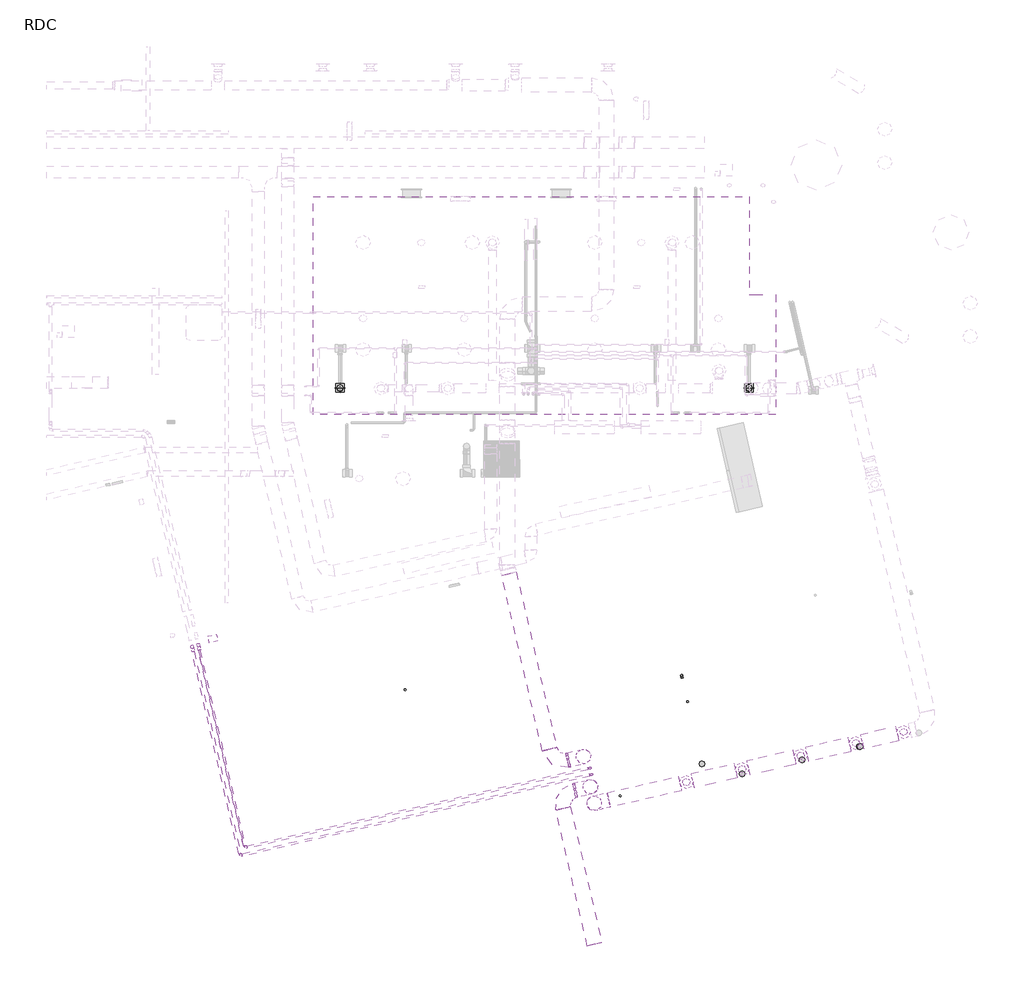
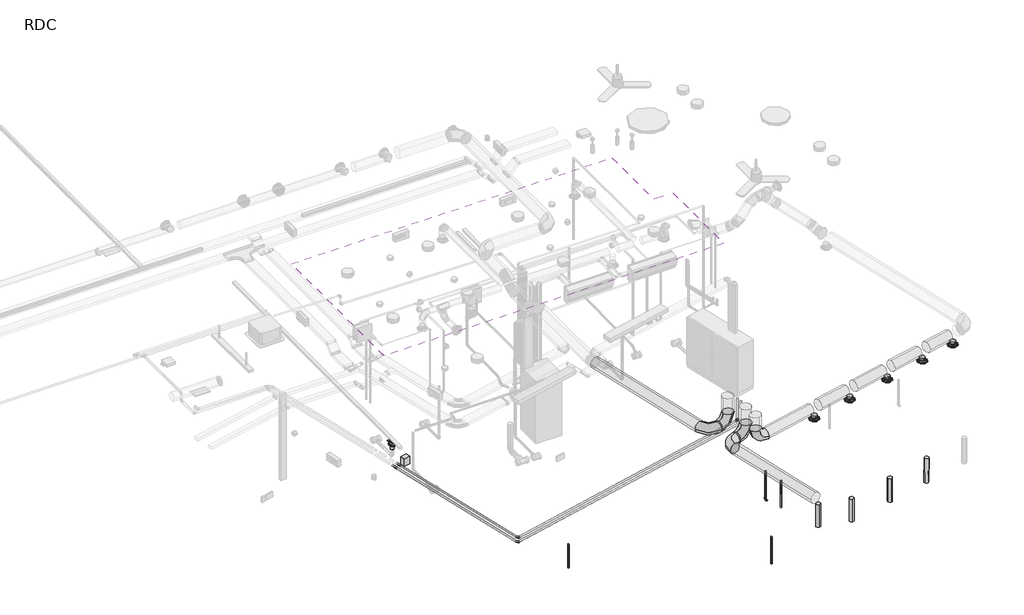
# One storey, part 1 of 15: 17 duct segments, 16 pipe segments, 7 pipe fittings, 5 air terminals, 5 duct fittings, 2 flow terminals, 1 covering, 1 valve.
"""IFC4 building model written with IfcOpenShell, lengths in millimetres."""

from ifc_helpers import new_model, si_unit, point, frame, frame_2d, origin, place, context, project, spatial, polyline, circle_curve, trimmed, segment, composite_curve, outline, extrude, transform, mapped, element, save
from ifc_brep_helpers import plane_surface, cylinder_surface, advanced_brep
from components import air_terminal_c84e8fe3, coude_circulaire_1_d_a3c698fd, coude_circulaire_1_d_d42bbd03, coude_circulaire_1_d_a49ceb65, coude_circulaire_1_d_0986e44b, flow_terminal_425eb7e2, coude_ff_pvc_u_standard_dcdbfd8c, standard_8dba9d94, standard_7c18a4ec, valve_f3d73a9d

model = new_model("IFC4")

# Units and contexts
model_context = context("Model", 3, world=origin())
ifc_project = project(units=[si_unit("LENGTHUNIT", "METRE", prefix="MILLI")], contexts=[model_context])

# Site, building, storey
site = spatial("IfcSite", under=ifc_project)
building = spatial("IfcBuilding", under=site)
storey = spatial("IfcBuildingStorey", under=building, Name="RDC", Elevation=0.0)

# Air terminals
placement = place(None, origin())
air_terminal_shape = air_terminal_c84e8fe3(model_context)
element("IfcAirTerminal", 1, ObjectType="AI_Bouche aération_Circulaire Extraction : ø125 mm", at=placement, inside=storey, context=model_context, shape_type="MappedRepresentation", body=[
    mapped(air_terminal_shape, transform((38460.9974692, -2365.0178721, 2539.0818693), x_axis=(0.0, 1.0, 0.0), y_axis=(-1.0, 0.0, 0.0), z_axis=(0.0, 0.0, 1.0))),
])
element("IfcAirTerminal", 2, ObjectType="AI_Bouche aération_Circulaire Extraction : ø125 mm", at=placement, inside=storey, context=model_context, shape_type="MappedRepresentation", body=[
    mapped(air_terminal_shape, transform((39398.6911073, -2148.6759029, 2539.0818693), x_axis=(0.0, 1.0, 0.0), y_axis=(-1.0, 0.0, 0.0), z_axis=(0.0, 0.0, 1.0))),
])
element("IfcAirTerminal", 3, ObjectType="AI_Bouche aération_Circulaire Extraction : ø125 mm", at=placement, inside=storey, context=model_context, shape_type="MappedRepresentation", body=[
    mapped(air_terminal_shape, transform((40384.7770224, -1921.0048281, 2539.0818693), x_axis=(0.0, 1.0, 0.0), y_axis=(-1.0, 0.0, 0.0), z_axis=(0.0, 0.0, 1.0))),
])
element("IfcAirTerminal", 4, ObjectType="AI_Bouche aération_Circulaire Extraction : ø125 mm", at=placement, inside=storey, context=model_context, shape_type="MappedRepresentation", body=[
    mapped(air_terminal_shape, transform((41312.0896047, -1706.9035525, 2539.0818693), x_axis=(0.0, 1.0, 0.0), y_axis=(-1.0, 0.0, 0.0), z_axis=(0.0, 0.0, 1.0))),
])
element("IfcAirTerminal", 5, ObjectType="AI_Bouche aération_Circulaire Extraction : ø125 mm", at=placement, inside=storey, context=model_context, shape_type="MappedRepresentation", body=[
    mapped(air_terminal_shape, transform((42116.7842584, -1521.4537814, 2539.0818693), x_axis=(0.0, 1.0, 0.0), y_axis=(-1.0, 0.0, 0.0), z_axis=(0.0, 0.0, 1.0))),
])

# Covering
element("IfcCovering", 6, ObjectType="Faux plafond 70mm", at=placement, inside=storey, context=model_context, shape_type="SweptSolid", body=[
    extrude(outline(polyline([(39522.1197439, 7494.5404412), (39522.1197439, 5844.5404412), (39962.5862249, 5844.5404412), (39962.5862249, 3819.2828859), (32181.1269581, 3819.2828859), (32181.1269581, 7494.5404412), (39522.1197439, 7494.5404412)])), frame((0.0, 0.0, 2500.0), z_axis=(0.0, 0.0, 1.0), x_axis=(1.0, 0.0, 0.0)), (0.0, 0.0, 1.0), 70.0),
])

# Duct fittings
coude_circulaire_1_d_shape = coude_circulaire_1_d_a3c698fd(model_context)
element("IfcDuctFitting", 7, ObjectType="Coude circulaire : 1 D", at=placement, inside=storey, context=model_context, shape_type="MappedRepresentation", body=[
    mapped(coude_circulaire_1_d_shape, transform((36910.3410685, -2722.9884606, 2809.9), x_axis=(-0.9744017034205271, -0.22481396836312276, 0.0), y_axis=(0.0, 0.0, 1.0), z_axis=(-0.22481396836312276, 0.9744017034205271, 0.0))),
])
element("IfcDuctFitting", 8, ObjectType="Coude circulaire : 1 D", at=placement, inside=storey, context=model_context, shape_type="MappedRepresentation", body=[
    mapped(coude_circulaire_1_d_shape, transform((36846.3028278, -2445.4266375, 2809.9), x_axis=(0.0, 0.0, -1.0), y_axis=(-0.9743700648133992, -0.22495105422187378, 0.0), z_axis=(-0.22495105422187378, 0.9743700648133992, 0.0))),
])
coude_circulaire_1_d_2_shape = coude_circulaire_1_d_d42bbd03(model_context)
element("IfcDuctFitting", 9, ObjectType="Coude circulaire : 1 D", at=placement, inside=storey, context=model_context, shape_type="MappedRepresentation", body=[
    mapped(coude_circulaire_1_d_2_shape, transform((36728.829637, -1936.5943649, 2809.9), x_axis=(0.0, 0.0, -1.0), y_axis=(0.9743700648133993, 0.22495105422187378, 0.0), z_axis=(0.22495105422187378, -0.9743700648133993, 0.0))),
])
coude_circulaire_1_d_3_shape = coude_circulaire_1_d_a49ceb65(model_context)
element("IfcDuctFitting", 10, ObjectType="Coude circulaire : 1 D", at=placement, inside=storey, context=model_context, shape_type="MappedRepresentation", body=[
    mapped(coude_circulaire_1_d_3_shape, transform((36330.4664925, -2564.5164702, 2809.9), x_axis=(-0.9743703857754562, -0.2249496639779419, 0.0), y_axis=(0.2249496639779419, -0.9743703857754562, 0.0), z_axis=(0.0, 0.0, 1.0))),
])
coude_circulaire_1_d_4_shape = coude_circulaire_1_d_0986e44b(model_context)
element("IfcDuctFitting", 11, ObjectType="Coude circulaire : 1 D", at=placement, inside=storey, context=model_context, shape_type="MappedRepresentation", body=[
    mapped(coude_circulaire_1_d_4_shape, transform((36212.9848676, -2055.686518, 2809.9), x_axis=(0.2249577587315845, -0.9743685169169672, -5.243288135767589e-06), y_axis=(0.9743685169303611, 0.2249577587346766, 3.5999192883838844e-11), z_axis=(1.1794832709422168e-06, -5.10890298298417e-06, 0.9999999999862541))),
])

# Duct segments
element("IfcDuctSegment", 12, ObjectType="Circulaire - Té", at=placement, inside=storey, context=model_context, shape_type="SweptSolid", body=[
    extrude(outline(composite_curve([segment(trimmed(circle_curve(frame_2d((0.0, -125.0)), 125.0), [point((-125.0, -125.0))], [point((0.0, 0.0))], False, "CARTESIAN"), True, "CONTINUOUS"), segment(trimmed(circle_curve(frame_2d((0.0, -125.0)), 125.0), [point((0.0, 0.0))], [point((125.0, -125.0))], False, "CARTESIAN"), True, "CONTINUOUS"), segment(trimmed(circle_curve(frame_2d((0.0, -125.0)), 125.0), [point((125.0, -125.0))], [point((0.0, -250.0))], False, "CARTESIAN"), True, "CONTINUOUS"), segment(trimmed(circle_curve(frame_2d((0.0, -125.0)), 125.0), [point((0.0, -250.0))], [point((-125.0, -125.0))], False, "CARTESIAN"), True, "CONTINUOUS")], self_intersect=False)), frame((37153.9415252, -2666.7851024, 2684.9), z_axis=(0.9744023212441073, 0.2248112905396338, 0.0), x_axis=(0.2248112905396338, -0.9744023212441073, 0.0)), (0.0, 0.0, 1.0), 1228.9390263),
])
element("IfcDuctSegment", 13, ObjectType="Circulaire - Té", at=placement, inside=storey, context=model_context, shape_type="SweptSolid", body=[
    extrude(outline(composite_curve([segment(trimmed(circle_curve(frame_2d((36910.3410685, -2722.9884606)), 125.0), [point((36938.4617331, -2844.7843071))], [point((36788.545222, -2751.1091252))], False, "CARTESIAN"), True, "CONTINUOUS"), segment(trimmed(circle_curve(frame_2d((36910.3410685, -2722.9884606)), 125.0), [point((36788.545222, -2751.1091252))], [point((36882.2204039, -2601.1926141))], False, "CARTESIAN"), True, "CONTINUOUS"), segment(trimmed(circle_curve(frame_2d((36910.3410685, -2722.9884606)), 125.0), [point((36882.2204039, -2601.1926141))], [point((37032.136915, -2694.867796))], False, "CARTESIAN"), True, "CONTINUOUS"), segment(trimmed(circle_curve(frame_2d((36910.3410685, -2722.9884606)), 125.0), [point((37032.136915, -2694.867796))], [point((36938.4617331, -2844.7843071))], False, "CARTESIAN"), True, "CONTINUOUS")], self_intersect=False)), frame((0.0, 0.0, 3059.9), z_axis=(0.0, 0.0, 1.0), x_axis=(1.0, 0.0, 0.0)), (0.0, 0.0, 1.0), 327.4813693),
])
element("IfcDuctSegment", 14, ObjectType="Circulaire - Té", at=placement, inside=storey, context=model_context, shape_type="SweptSolid", body=[
    extrude(outline(composite_curve([segment(trimmed(circle_curve(frame_2d((0.0, -125.0)), 125.0), [point((-125.0, -125.0))], [point((0.0, 0.0))], False, "CARTESIAN"), True, "CONTINUOUS"), segment(trimmed(circle_curve(frame_2d((0.0, -125.0)), 125.0), [point((0.0, 0.0))], [point((125.0, -125.0))], False, "CARTESIAN"), True, "CONTINUOUS"), segment(trimmed(circle_curve(frame_2d((0.0, -125.0)), 125.0), [point((125.0, -125.0))], [point((0.0, -250.0))], False, "CARTESIAN"), True, "CONTINUOUS"), segment(trimmed(circle_curve(frame_2d((0.0, -125.0)), 125.0), [point((0.0, -250.0))], [point((-125.0, -125.0))], False, "CARTESIAN"), True, "CONTINUOUS")], self_intersect=False)), frame((36574.0594365, -2508.278974, 2684.9), z_axis=(0.9743700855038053, 0.22495096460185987, 0.0), x_axis=(0.22495096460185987, -0.9743700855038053, 0.0)), (0.0, 0.0, 1.0), 29.4045102),
])
element("IfcDuctSegment", 15, ObjectType="Circulaire - Té", at=placement, inside=storey, context=model_context, shape_type="SweptSolid", body=[
    extrude(outline(composite_curve([segment(trimmed(circle_curve(frame_2d((0.0, 125.0)), 125.0), [point((28.1206646, 3.2041535))], [point((-121.7958465, 96.8793354))], False, "CARTESIAN"), True, "CONTINUOUS"), segment(trimmed(circle_curve(frame_2d((0.0, 125.0)), 125.0), [point((-121.7958465, 96.8793354))], [point((-28.1206646, 246.7958465))], False, "CARTESIAN"), True, "CONTINUOUS"), segment(trimmed(circle_curve(frame_2d((0.0, 125.0)), 125.0), [point((-28.1206646, 246.7958465))], [point((121.7958465, 153.1206646))], False, "CARTESIAN"), True, "CONTINUOUS"), segment(trimmed(circle_curve(frame_2d((0.0, 125.0)), 125.0), [point((121.7958465, 153.1206646))], [point((28.1206646, 3.2041535))], False, "CARTESIAN"), True, "CONTINUOUS")], self_intersect=False)), frame((36846.3028278, -2570.4266375, 3059.8999249), z_axis=(1.3876792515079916e-07, -6.010698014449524e-07, 0.9999999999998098), x_axis=(0.9999999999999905, 0.0, -1.3876792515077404e-07)), (0.0, 0.0, 1.0), 378.3995242),
])
element("IfcDuctSegment", 16, ObjectType="Circulaire - Té", at=placement, inside=storey, context=model_context, shape_type="SweptSolid", body=[
    extrude(outline(composite_curve([segment(trimmed(circle_curve(frame_2d((0.0, -125.0)), 125.0), [point((-125.0, -125.0))], [point((0.0, 0.0))], False, "CARTESIAN"), True, "CONTINUOUS"), segment(trimmed(circle_curve(frame_2d((0.0, -125.0)), 125.0), [point((0.0, 0.0))], [point((125.0000001, -125.0))], False, "CARTESIAN"), True, "CONTINUOUS"), segment(trimmed(circle_curve(frame_2d((0.0, -125.0)), 125.0), [point((125.0000001, -125.0))], [point((0.0, -250.0))], False, "CARTESIAN"), True, "CONTINUOUS"), segment(trimmed(circle_curve(frame_2d((0.0, -125.0)), 125.0), [point((0.0, -250.0))], [point((-125.0, -125.0))], False, "CARTESIAN"), True, "CONTINUOUS")], self_intersect=False)), frame((36915.3057988, -5097.7338324, 2684.9), z_axis=(-0.224951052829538, 0.9743700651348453, 0.0), x_axis=(0.9743700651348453, 0.224951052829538, 0.0)), (0.0, 0.0, 1.0), 2349.8510272),
])
element("IfcDuctSegment", 17, ObjectType="Circulaire - Té", at=placement, inside=storey, context=model_context, shape_type="SweptSolid", body=[
    extrude(outline(composite_curve([segment(trimmed(circle_curve(frame_2d((0.0, -125.0)), 125.0), [point((-125.0, -125.0))], [point((0.0, 0.0))], False, "CARTESIAN"), True, "CONTINUOUS"), segment(trimmed(circle_curve(frame_2d((0.0, -125.0)), 125.0), [point((0.0, 0.0))], [point((125.0, -125.0))], False, "CARTESIAN"), True, "CONTINUOUS"), segment(trimmed(circle_curve(frame_2d((0.0, -125.0)), 125.0), [point((125.0, -125.0))], [point((0.0, -250.0))], False, "CARTESIAN"), True, "CONTINUOUS"), segment(trimmed(circle_curve(frame_2d((0.0, -125.0)), 125.0), [point((0.0, -250.0))], [point((-125.0, -125.0))], False, "CARTESIAN"), True, "CONTINUOUS")], self_intersect=False)), frame((36456.5757065, -1999.4491378, 2684.9), z_axis=(0.9743700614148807, 0.22495106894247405, 0.0), x_axis=(0.22495106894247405, -0.9743700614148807, 0.0)), (0.0, 0.0, 1.0), 29.4153274),
])
element("IfcDuctSegment", 18, ObjectType="Circulaire - Té", at=placement, inside=storey, context=model_context, shape_type="SweptSolid", body=[
    extrude(outline(composite_curve([segment(trimmed(circle_curve(frame_2d((0.0, 125.0)), 125.0), [point((28.1171018, 3.2033309))], [point((-121.796669, 96.8828982))], False, "CARTESIAN"), True, "CONTINUOUS"), segment(trimmed(circle_curve(frame_2d((0.0, 125.0)), 125.0), [point((-121.796669, 96.8828982))], [point((-28.1171017, 246.796669))], False, "CARTESIAN"), True, "CONTINUOUS"), segment(trimmed(circle_curve(frame_2d((0.0, 125.0)), 125.0), [point((-28.1171017, 246.796669))], [point((121.7966691, 153.1171017))], False, "CARTESIAN"), True, "CONTINUOUS"), segment(trimmed(circle_curve(frame_2d((0.0, 125.0)), 125.0), [point((121.7966691, 153.1171017))], [point((28.1171018, 3.2033309))], False, "CARTESIAN"), True, "CONTINUOUS")], self_intersect=False)), frame((36728.829637, -2061.5943649, 3059.9000631), z_axis=(-1.165275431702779e-07, 5.047351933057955e-07, 0.999999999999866), x_axis=(0.9999999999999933, 0.0, 1.1652754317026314e-07)), (0.0, 0.0, 1.0), 378.3995),
])
element("IfcDuctSegment", 19, ObjectType="Circulaire - Té", at=placement, inside=storey, context=model_context, shape_type="SweptSolid", body=[
    extrude(outline(composite_curve([segment(trimmed(circle_curve(frame_2d((0.0, -125.0)), 125.0), [point((-125.0, -125.0001514))], [point((-0.0001515, 0.0))], False, "CARTESIAN"), True, "CONTINUOUS"), segment(trimmed(circle_curve(frame_2d((0.0, -125.0)), 125.0), [point((-0.0001515, 0.0))], [point((125.0, -124.9998486))], False, "CARTESIAN"), True, "CONTINUOUS"), segment(trimmed(circle_curve(frame_2d((0.0, -125.0)), 125.0), [point((125.0, -124.9998486))], [point((0.0001514, -250.0))], False, "CARTESIAN"), True, "CONTINUOUS"), segment(trimmed(circle_curve(frame_2d((0.0, -125.0)), 125.0), [point((0.0001514, -250.0))], [point((-125.0, -125.0001514))], False, "CARTESIAN"), True, "CONTINUOUS")], self_intersect=False)), frame((36156.7458141, -1812.0953881, 2684.9013108), z_axis=(-0.2249577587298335, 0.9743685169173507, 5.247152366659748e-06), x_axis=(0.9743685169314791, 0.2249577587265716, 1.2114386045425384e-06)), (0.0, 0.0, 1.0), 3034.6920039),
])
element("IfcDuctSegment", 20, ObjectType="Circulaire - Té", at=placement, inside=storey, context=model_context, shape_type="SweptSolid", body=[
    extrude(outline(composite_curve([segment(trimmed(circle_curve(frame_2d((38461.0428262, -2365.2144637)), 62.5), [point((38446.9921206, -2304.3143186))], [point((38521.9429713, -2351.163758))], False, "CARTESIAN"), True, "CONTINUOUS"), segment(trimmed(circle_curve(frame_2d((38461.0428262, -2365.2144637)), 62.5), [point((38521.9429713, -2351.163758))], [point((38475.0935319, -2426.1146088))], False, "CARTESIAN"), True, "CONTINUOUS"), segment(trimmed(circle_curve(frame_2d((38461.0428262, -2365.2144637)), 62.5), [point((38475.0935319, -2426.1146088))], [point((38400.1426812, -2379.2651694))], False, "CARTESIAN"), True, "CONTINUOUS"), segment(trimmed(circle_curve(frame_2d((38461.0428262, -2365.2144637)), 62.5), [point((38400.1426812, -2379.2651694))], [point((38446.9921206, -2304.3143186))], False, "CARTESIAN"), True, "CONTINUOUS")], self_intersect=False)), frame((0.0, 0.0, 2625.6818693), z_axis=(0.0, 0.0, 1.0), x_axis=(1.0, 0.0, 0.0)), (0.0, 0.0, 1.0), 9.2181307),
])
element("IfcDuctSegment", 21, ObjectType="Circulaire - Té", at=placement, inside=storey, context=model_context, shape_type="SweptSolid", body=[
    extrude(outline(composite_curve([segment(trimmed(circle_curve(frame_2d((0.0, 125.0)), 125.0), [point((125.0, 125.0))], [point((0.0, 0.0))], False, "CARTESIAN"), True, "CONTINUOUS"), segment(trimmed(circle_curve(frame_2d((0.0, 125.0)), 125.0), [point((0.0, 0.0))], [point((-124.9999999, 125.0))], False, "CARTESIAN"), True, "CONTINUOUS"), segment(trimmed(circle_curve(frame_2d((0.0, 125.0)), 125.0), [point((-124.9999999, 125.0))], [point((0.0, 250.0))], False, "CARTESIAN"), True, "CONTINUOUS"), segment(trimmed(circle_curve(frame_2d((0.0, 125.0)), 125.0), [point((0.0, 250.0))], [point((125.0, 125.0))], False, "CARTESIAN"), True, "CONTINUOUS")], self_intersect=False)), frame((38570.6630874, -2339.9231935, 2934.9), z_axis=(0.9744023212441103, 0.2248112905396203, 0.0), x_axis=(0.2248112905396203, -0.9744023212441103, 0.0)), (0.0, 0.0, 1.0), 737.3269749),
])
element("IfcDuctSegment", 22, ObjectType="Circulaire - Té", at=placement, inside=storey, context=model_context, shape_type="SweptSolid", body=[
    extrude(outline(composite_curve([segment(trimmed(circle_curve(frame_2d((39398.7364644, -2148.8724946)), 62.5), [point((39384.6857587, -2087.9723495))], [point((39459.6366095, -2134.8217889))], False, "CARTESIAN"), True, "CONTINUOUS"), segment(trimmed(circle_curve(frame_2d((39398.7364644, -2148.8724946)), 62.5), [point((39459.6366095, -2134.8217889))], [point((39412.7871701, -2209.7726396))], False, "CARTESIAN"), True, "CONTINUOUS"), segment(trimmed(circle_curve(frame_2d((39398.7364644, -2148.8724946)), 62.5), [point((39412.7871701, -2209.7726396))], [point((39337.8363193, -2162.9232002))], False, "CARTESIAN"), True, "CONTINUOUS"), segment(trimmed(circle_curve(frame_2d((39398.7364644, -2148.8724946)), 62.5), [point((39337.8363193, -2162.9232002))], [point((39384.6857587, -2087.9723495))], False, "CARTESIAN"), True, "CONTINUOUS")], self_intersect=False)), frame((0.0, 0.0, 2625.6818693), z_axis=(0.0, 0.0, 1.0), x_axis=(1.0, 0.0, 0.0)), (0.0, 0.0, 1.0), 9.2181307),
])
element("IfcDuctSegment", 23, ObjectType="Circulaire - Té", at=placement, inside=storey, context=model_context, shape_type="SweptSolid", body=[
    extrude(outline(composite_curve([segment(trimmed(circle_curve(frame_2d((0.0, 125.0)), 125.0), [point((124.9999999, 125.0))], [point((0.0, 0.0))], False, "CARTESIAN"), True, "CONTINUOUS"), segment(trimmed(circle_curve(frame_2d((0.0, 125.0)), 125.0), [point((0.0, 0.0))], [point((-125.0, 125.0))], False, "CARTESIAN"), True, "CONTINUOUS"), segment(trimmed(circle_curve(frame_2d((0.0, 125.0)), 125.0), [point((-125.0, 125.0))], [point((0.0, 250.0))], False, "CARTESIAN"), True, "CONTINUOUS"), segment(trimmed(circle_curve(frame_2d((0.0, 125.0)), 125.0), [point((0.0, 250.0))], [point((124.9999999, 125.0))], False, "CARTESIAN"), True, "CONTINUOUS")], self_intersect=False)), frame((39508.3567255, -2123.5812244, 2934.9), z_axis=(0.9743566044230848, 0.2250093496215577, 0.0), x_axis=(0.2250093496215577, -0.9743566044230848, 0.0)), (0.0, 0.0, 1.0), 787.027449),
])
element("IfcDuctSegment", 24, ObjectType="Circulaire - Té", at=placement, inside=storey, context=model_context, shape_type="SweptSolid", body=[
    extrude(outline(composite_curve([segment(trimmed(circle_curve(frame_2d((40384.8223794, -1921.2014198)), 62.5), [point((40370.7716738, -1860.3012747))], [point((40445.7225245, -1907.1507141))], False, "CARTESIAN"), True, "CONTINUOUS"), segment(trimmed(circle_curve(frame_2d((40384.8223794, -1921.2014198)), 62.5), [point((40445.7225245, -1907.1507141))], [point((40398.8730851, -1982.1015648))], False, "CARTESIAN"), True, "CONTINUOUS"), segment(trimmed(circle_curve(frame_2d((40384.8223794, -1921.2014198)), 62.5), [point((40398.8730851, -1982.1015648))], [point((40323.9222344, -1935.2521254))], False, "CARTESIAN"), True, "CONTINUOUS"), segment(trimmed(circle_curve(frame_2d((40384.8223794, -1921.2014198)), 62.5), [point((40323.9222344, -1935.2521254))], [point((40370.7716738, -1860.3012747))], False, "CARTESIAN"), True, "CONTINUOUS")], self_intersect=False)), frame((0.0, 0.0, 2625.6818693), z_axis=(0.0, 0.0, 1.0), x_axis=(1.0, 0.0, 0.0)), (0.0, 0.0, 1.0), 9.2181307),
])
element("IfcDuctSegment", 25, ObjectType="Circulaire - Té", at=placement, inside=storey, context=model_context, shape_type="SweptSolid", body=[
    extrude(outline(composite_curve([segment(trimmed(circle_curve(frame_2d((41312.0896047, -1706.9035525)), 62.5), [point((41312.0896047, -1644.4035525))], [point((41374.5896047, -1706.9035525))], False, "CARTESIAN"), True, "CONTINUOUS"), segment(trimmed(circle_curve(frame_2d((41312.0896047, -1706.9035525)), 62.5), [point((41374.5896047, -1706.9035525))], [point((41312.0896047, -1769.4035525))], False, "CARTESIAN"), True, "CONTINUOUS"), segment(trimmed(circle_curve(frame_2d((41312.0896047, -1706.9035525)), 62.5), [point((41312.0896047, -1769.4035525))], [point((41249.5896047, -1706.9035525))], False, "CARTESIAN"), True, "CONTINUOUS"), segment(trimmed(circle_curve(frame_2d((41312.0896047, -1706.9035525)), 62.5), [point((41249.5896047, -1706.9035525))], [point((41312.0896047, -1644.4035525))], False, "CARTESIAN"), True, "CONTINUOUS")], self_intersect=False)), frame((0.0, 0.0, 2625.6818693), z_axis=(0.0, 0.0, 1.0), x_axis=(1.0, 0.0, 0.0)), (0.0, 0.0, 1.0), 9.2181307),
])
element("IfcDuctSegment", 26, ObjectType="Circulaire - Té", at=placement, inside=storey, context=model_context, shape_type="SweptSolid", body=[
    extrude(outline(composite_curve([segment(trimmed(circle_curve(frame_2d((0.0, 125.0)), 125.0), [point((124.9999999, 125.0))], [point((0.0, 0.0))], False, "CARTESIAN"), True, "CONTINUOUS"), segment(trimmed(circle_curve(frame_2d((0.0, 125.0)), 125.0), [point((0.0, 0.0))], [point((-125.0000001, 125.0))], False, "CARTESIAN"), True, "CONTINUOUS"), segment(trimmed(circle_curve(frame_2d((0.0, 125.0)), 125.0), [point((-125.0000001, 125.0))], [point((0.0, 250.0))], False, "CARTESIAN"), True, "CONTINUOUS"), segment(trimmed(circle_curve(frame_2d((0.0, 125.0)), 125.0), [point((0.0, 250.0))], [point((124.9999999, 125.0))], False, "CARTESIAN"), True, "CONTINUOUS")], self_intersect=False)), frame((40494.4426406, -1895.9101496, 2934.9), z_axis=(0.9743557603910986, 0.22501300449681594, 0.0), x_axis=(0.22501300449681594, -0.9743557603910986, 0.0)), (0.0, 0.0, 1.0), 726.7079324),
])
element("IfcDuctSegment", 27, ObjectType="Circulaire - Té", at=placement, inside=storey, context=model_context, shape_type="SweptSolid", body=[
    extrude(outline(composite_curve([segment(trimmed(circle_curve(frame_2d((0.0, 125.0)), 125.0), [point((125.0, 125.0))], [point((0.0, 0.0))], False, "CARTESIAN"), True, "CONTINUOUS"), segment(trimmed(circle_curve(frame_2d((0.0, 125.0)), 125.0), [point((0.0, 0.0))], [point((-124.9999999, 125.0))], False, "CARTESIAN"), True, "CONTINUOUS"), segment(trimmed(circle_curve(frame_2d((0.0, 125.0)), 125.0), [point((-124.9999999, 125.0))], [point((0.0, 250.0))], False, "CARTESIAN"), True, "CONTINUOUS"), segment(trimmed(circle_curve(frame_2d((0.0, 125.0)), 125.0), [point((0.0, 250.0))], [point((125.0, 125.0))], False, "CARTESIAN"), True, "CONTINUOUS")], self_intersect=False)), frame((41421.7552229, -1681.8088739, 2934.9), z_axis=(0.9744023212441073, 0.2248112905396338, 0.0), x_axis=(0.2248112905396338, -0.9744023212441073, 0.0)), (0.0, 0.0, 1.0), 600.7875408),
])
element("IfcDuctSegment", 28, ObjectType="Circulaire - Té", at=placement, inside=storey, context=model_context, shape_type="SweptSolid", body=[
    extrude(outline(composite_curve([segment(trimmed(circle_curve(frame_2d((42116.7842584, -1521.4537814)), 62.5), [point((42116.7842584, -1458.9537814))], [point((42179.2842584, -1521.4537814))], False, "CARTESIAN"), True, "CONTINUOUS"), segment(trimmed(circle_curve(frame_2d((42116.7842584, -1521.4537814)), 62.5), [point((42179.2842584, -1521.4537814))], [point((42116.7842584, -1583.9537814))], False, "CARTESIAN"), True, "CONTINUOUS"), segment(trimmed(circle_curve(frame_2d((42116.7842584, -1521.4537814)), 62.5), [point((42116.7842584, -1583.9537814))], [point((42054.2842584, -1521.4537814))], False, "CARTESIAN"), True, "CONTINUOUS"), segment(trimmed(circle_curve(frame_2d((42116.7842584, -1521.4537814)), 62.5), [point((42054.2842584, -1521.4537814))], [point((42116.7842584, -1458.9537814))], False, "CARTESIAN"), True, "CONTINUOUS")], self_intersect=False)), frame((0.0, 0.0, 2625.6818693), z_axis=(0.0, 0.0, 1.0), x_axis=(1.0, 0.0, 0.0)), (0.0, 0.0, 1.0), 9.2181307),
])

# Flow terminals
flow_terminal_shape = flow_terminal_425eb7e2(model_context)
element("IfcFlowTerminal", 29, ObjectType="AI_Appareil sanitaire_Siphon de sol_Sortie verticale : Siphon de sol", at=placement, inside=storey, context=model_context, shape_type="MappedRepresentation", body=[
    mapped(flow_terminal_shape, transform((39513.4579761, 4272.8554213, 0.0), x_axis=(1.0, 0.0, 0.0), y_axis=(0.0, 1.0, 0.0), z_axis=(0.0, 0.0, 1.0))),
])
element("IfcFlowTerminal", 30, ObjectType="AI_Appareil sanitaire_Siphon de sol_Sortie verticale : Siphon de sol", at=placement, inside=storey, context=model_context, shape_type="MappedRepresentation", body=[
    mapped(flow_terminal_shape, transform((32632.2809933, 4272.8554213, 0.0), x_axis=(1.0, 0.0, 0.0), y_axis=(0.0, 1.0, 0.0), z_axis=(0.0, 0.0, 1.0))),
])

# Pipe fittings
coude_ff_pvc_u_standard_shape = coude_ff_pvc_u_standard_dcdbfd8c(model_context)
element("IfcPipeFitting", 31, ObjectType="Coude - FF - PVC-U : Standard", at=placement, inside=storey, context=model_context, shape_type="MappedRepresentation", body=[
    mapped(coude_ff_pvc_u_standard_shape, transform((38378.8595018, -566.7748654, -487.6724353), x_axis=(6.411232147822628e-05, 1.4801495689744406e-05, -0.999999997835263), y_axis=(0.22473333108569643, -0.974420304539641, -1.4702368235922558e-08), z_axis=(-0.9744203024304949, -0.22473333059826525, -6.579873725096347e-05))),
])
standard_shape = standard_8dba9d94(model_context)
element("IfcPipeFitting", 32, ObjectType="Coude - Générique1 : Standard", at=placement, inside=storey, context=model_context, shape_type="MappedRepresentation", body=[
    mapped(standard_shape, transform((30954.7098044, -3602.0693328, 2918.2995), x_axis=(0.22496531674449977, -0.9743667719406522, 0.0), y_axis=(0.9743667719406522, 0.22496531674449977, 0.0), z_axis=(0.0, 0.0, 1.0))),
])
element("IfcPipeFitting", 33, ObjectType="Coude - Générique1 : Standard", at=placement, inside=storey, context=model_context, shape_type="MappedRepresentation", body=[
    mapped(standard_shape, transform((31037.3704081, -3469.6046897, 2918.2995), x_axis=(0.22495106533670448, -0.9743700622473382, 0.0), y_axis=(0.9743700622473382, 0.22495106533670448, 0.0), z_axis=(0.0, 0.0, 1.0))),
])
element("IfcPipeFitting", 34, ObjectType="Coude - Générique1 : Standard", at=placement, inside=storey, context=model_context, shape_type="MappedRepresentation", body=[
    mapped(standard_shape, transform((36863.4633119, -2237.8349986, 2918.2995), x_axis=(0.974366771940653, 0.22496531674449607, 0.0), y_axis=(0.0, 0.0, 1.0), z_axis=(0.22496531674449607, -0.974366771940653, 0.0))),
])
element("IfcPipeFitting", 35, ObjectType="Coude - Générique1 : Standard", at=placement, inside=storey, context=model_context, shape_type="MappedRepresentation", body=[
    mapped(standard_shape, transform((36838.6318078, -2130.2778951, 2918.2995), x_axis=(0.9743700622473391, 0.22495106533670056, 0.0), y_axis=(0.0, 0.0, 1.0), z_axis=(0.22495106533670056, -0.9743700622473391, 0.0))),
])
standard_2_shape = standard_7c18a4ec(model_context)
element("IfcPipeFitting", 36, ObjectType="Manchon - Générique1 : Standard", at=placement, inside=storey, context=model_context, shape_type="MappedRepresentation", body=[
    mapped(standard_2_shape, transform((30155.885478, -142.2360612, 2918.2995), x_axis=(0.22496540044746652, -0.9743667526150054, 0.0), y_axis=(0.9743667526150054, 0.22496540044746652, 0.0), z_axis=(0.0, 0.0, 1.0))),
])
element("IfcPipeFitting", 37, ObjectType="Manchon - Générique1 : Standard", at=placement, inside=storey, context=model_context, shape_type="MappedRepresentation", body=[
    mapped(standard_2_shape, transform((30262.4915005, -113.2375559, 2918.2995), x_axis=(-0.22495119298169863, 0.974370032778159, 0.0), y_axis=(-0.974370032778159, -0.22495119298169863, 0.0), z_axis=(0.0, 0.0, 1.0))),
])

# Pipe segments
element("IfcPipeSegment", 38, ObjectType="Acier - Té", at=placement, inside=storey, context=model_context, shape_type="SweptSolid", body=[
    extrude(outline(composite_curve([segment(trimmed(circle_curve(frame_2d((0.0, -21.082)), 21.082), [point((-21.0819999, -21.082))], [point((0.0, 0.0))], False, "CARTESIAN"), True, "CONTINUOUS"), segment(trimmed(circle_curve(frame_2d((0.0, -21.082)), 21.082), [point((0.0, 0.0))], [point((21.0820001, -21.082))], False, "CARTESIAN"), True, "CONTINUOUS"), segment(trimmed(circle_curve(frame_2d((0.0, -21.082)), 21.082), [point((21.0820001, -21.082))], [point((0.0, -42.164))], False, "CARTESIAN"), True, "CONTINUOUS"), segment(trimmed(circle_curve(frame_2d((0.0, -21.082)), 21.082), [point((0.0, -42.164))], [point((-21.0819999, -21.082))], False, "CARTESIAN"), True, "CONTINUOUS")], self_intersect=False)), frame((30947.5109142, -3570.8895961, 2897.2175), z_axis=(-0.22496682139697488, 0.9743664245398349, 0.0), x_axis=(0.9743664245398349, 0.22496682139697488, 0.0)), (0.0, 0.0, 1.0), 3490.3543439),
])
element("IfcPipeSegment", 39, ObjectType="Acier - Té", at=placement, inside=storey, context=model_context, shape_type="SweptSolid", body=[
    extrude(outline(composite_curve([segment(trimmed(circle_curve(frame_2d((0.0, 21.082)), 21.082), [point((21.082, 21.082))], [point((0.0, 0.0))], False, "CARTESIAN"), True, "CONTINUOUS"), segment(trimmed(circle_curve(frame_2d((0.0, 21.082)), 21.082), [point((0.0, 0.0))], [point((-21.082, 21.082))], False, "CARTESIAN"), True, "CONTINUOUS"), segment(trimmed(circle_curve(frame_2d((0.0, 21.082)), 21.082), [point((-21.082, 21.082))], [point((0.0, 42.164))], False, "CARTESIAN"), True, "CONTINUOUS"), segment(trimmed(circle_curve(frame_2d((0.0, 21.082)), 21.082), [point((0.0, 42.164))], [point((21.082, 21.082))], False, "CARTESIAN"), True, "CONTINUOUS")], self_intersect=False)), frame((30985.8895411, -3594.8704426, 2939.3815), z_axis=(0.9743667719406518, 0.22496531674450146, 0.0), x_axis=(0.22496531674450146, -0.9743667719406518, 0.0)), (0.0, 0.0, 1.0), 6000.1984904),
])
element("IfcPipeSegment", 40, ObjectType="Acier - Té", at=placement, inside=storey, context=model_context, shape_type="SweptSolid", body=[
    extrude(outline(composite_curve([segment(trimmed(circle_curve(frame_2d((0.0, 21.082)), 21.082), [point((21.082, 21.082))], [point((0.0, 0.0))], False, "CARTESIAN"), True, "CONTINUOUS"), segment(trimmed(circle_curve(frame_2d((0.0, 21.082)), 21.082), [point((0.0, 0.0))], [point((-21.0820001, 21.082))], False, "CARTESIAN"), True, "CONTINUOUS"), segment(trimmed(circle_curve(frame_2d((0.0, 21.082)), 21.082), [point((-21.0820001, 21.082))], [point((0.0, 42.164))], False, "CARTESIAN"), True, "CONTINUOUS"), segment(trimmed(circle_curve(frame_2d((0.0, 21.082)), 21.082), [point((0.0, 42.164))], [point((21.082, 21.082))], False, "CARTESIAN"), True, "CONTINUOUS")], self_intersect=False)), frame((31068.5502501, -3462.4062556, 2939.3815), z_axis=(0.9743700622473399, 0.2249510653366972, 0.0), x_axis=(0.2249510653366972, -0.9743700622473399, 0.0)), (0.0, 0.0, 1.0), 5889.8584204),
])
element("IfcPipeSegment", 41, ObjectType="Acier - Té", at=placement, inside=storey, context=model_context, shape_type="SweptSolid", body=[
    extrude(outline(composite_curve([segment(trimmed(circle_curve(frame_2d((36863.4633119, -2237.8349986)), 21.082), [point((36842.3813119, -2237.8349986))], [point((36863.4633119, -2216.7529986))], False, "CARTESIAN"), True, "CONTINUOUS"), segment(trimmed(circle_curve(frame_2d((36863.4633119, -2237.8349986)), 21.082), [point((36863.4633119, -2216.7529986))], [point((36884.5453119, -2237.8349986))], False, "CARTESIAN"), True, "CONTINUOUS"), segment(trimmed(circle_curve(frame_2d((36863.4633119, -2237.8349986)), 21.082), [point((36884.5453119, -2237.8349986))], [point((36863.4633119, -2258.9169986))], False, "CARTESIAN"), True, "CONTINUOUS"), segment(trimmed(circle_curve(frame_2d((36863.4633119, -2237.8349986)), 21.082), [point((36863.4633119, -2258.9169986))], [point((36842.3813119, -2237.8349986))], False, "CARTESIAN"), True, "CONTINUOUS")], self_intersect=False)), frame((0.0, 0.0, 2950.2995), z_axis=(0.0, 0.0, 1.0), x_axis=(1.0, 0.0, 0.0)), (0.0, 0.0, 1.0), 488.0),
])
element("IfcPipeSegment", 42, ObjectType="Acier - Té", at=placement, inside=storey, context=model_context, shape_type="SweptSolid", body=[
    extrude(outline(composite_curve([segment(trimmed(circle_curve(frame_2d((36838.6318078, -2130.2778951)), 21.082), [point((36817.5498078, -2130.2778951))], [point((36838.6318078, -2109.1958951))], False, "CARTESIAN"), True, "CONTINUOUS"), segment(trimmed(circle_curve(frame_2d((36838.6318078, -2130.2778951)), 21.082), [point((36838.6318078, -2109.1958951))], [point((36859.7138078, -2130.2778951))], False, "CARTESIAN"), True, "CONTINUOUS"), segment(trimmed(circle_curve(frame_2d((36838.6318078, -2130.2778951)), 21.082), [point((36859.7138078, -2130.2778951))], [point((36838.6318078, -2151.3598951))], False, "CARTESIAN"), True, "CONTINUOUS"), segment(trimmed(circle_curve(frame_2d((36838.6318078, -2130.2778951)), 21.082), [point((36838.6318078, -2151.3598951))], [point((36817.5498078, -2130.2778951))], False, "CARTESIAN"), True, "CONTINUOUS")], self_intersect=False)), frame((0.0, 0.0, 2950.2995), z_axis=(0.0, 0.0, 1.0), x_axis=(1.0, 0.0, 0.0)), (0.0, 0.0, 1.0), 488.0),
])
element("IfcPipeSegment", 43, ObjectType="Acier - Té", at=placement, inside=storey, context=model_context, shape_type="SweptSolid", body=[
    extrude(outline(composite_curve([segment(trimmed(circle_curve(frame_2d((0.0, -21.082)), 21.082), [point((-21.082, -21.082))], [point((0.0, 0.0))], False, "CARTESIAN"), True, "CONTINUOUS"), segment(trimmed(circle_curve(frame_2d((0.0, -21.082)), 21.082), [point((0.0, 0.0))], [point((21.0820001, -21.082))], False, "CARTESIAN"), True, "CONTINUOUS"), segment(trimmed(circle_curve(frame_2d((0.0, -21.082)), 21.082), [point((21.0820001, -21.082))], [point((0.0, -42.164))], False, "CARTESIAN"), True, "CONTINUOUS"), segment(trimmed(circle_curve(frame_2d((0.0, -21.082)), 21.082), [point((0.0, -42.164))], [point((-21.082, -21.082))], False, "CARTESIAN"), True, "CONTINUOUS")], self_intersect=False)), frame((30149.4739641, -114.4666087, 2897.2175), z_axis=(-0.22496403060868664, 0.9743670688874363, 0.0), x_axis=(0.9743670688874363, 0.22496403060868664, 0.0)), (0.0, 0.0, 1.0), 56.9595828),
])
element("IfcPipeSegment", 44, ObjectType="Acier - Té", at=placement, inside=storey, context=model_context, shape_type="SweptSolid", body=[
    extrude(outline(composite_curve([segment(trimmed(circle_curve(frame_2d((0.0, 21.082)), 21.082), [point((21.082, 21.082))], [point((0.0, 0.0))], False, "CARTESIAN"), True, "CONTINUOUS"), segment(trimmed(circle_curve(frame_2d((0.0, 21.082)), 21.082), [point((0.0, 0.0))], [point((-21.082, 21.082))], False, "CARTESIAN"), True, "CONTINUOUS"), segment(trimmed(circle_curve(frame_2d((0.0, 21.082)), 21.082), [point((-21.082, 21.082))], [point((0.0, 42.164))], False, "CARTESIAN"), True, "CONTINUOUS"), segment(trimmed(circle_curve(frame_2d((0.0, 21.082)), 21.082), [point((0.0, 42.164))], [point((21.082, 21.082))], False, "CARTESIAN"), True, "CONTINUOUS")], self_intersect=False)), frame((31030.171974, -3438.4248477, 2939.3815), z_axis=(-0.22495119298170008, 0.9743700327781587, 0.0), x_axis=(0.9743700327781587, 0.22495119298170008, 0.0)), (0.0, 0.0, 1.0), 3384.1534888),
])
element("IfcPipeSegment", 45, ObjectType="Acier - Té", at=placement, inside=storey, context=model_context, shape_type="SweptSolid", body=[
    extrude(outline(composite_curve([segment(trimmed(circle_curve(frame_2d((0.0, 21.082)), 21.082), [point((21.082, 21.082))], [point((0.0, 0.0))], False, "CARTESIAN"), True, "CONTINUOUS"), segment(trimmed(circle_curve(frame_2d((0.0, 21.082)), 21.082), [point((0.0, 0.0))], [point((-21.0820001, 21.082))], False, "CARTESIAN"), True, "CONTINUOUS"), segment(trimmed(circle_curve(frame_2d((0.0, 21.082)), 21.082), [point((-21.0820001, 21.082))], [point((0.0, 42.164))], False, "CARTESIAN"), True, "CONTINUOUS"), segment(trimmed(circle_curve(frame_2d((0.0, 21.082)), 21.082), [point((0.0, 42.164))], [point((21.082, 21.082))], False, "CARTESIAN"), True, "CONTINUOUS")], self_intersect=False)), frame((30256.0803915, -85.46801, 2939.3815), z_axis=(-0.22495119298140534, 0.9743700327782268, 0.0), x_axis=(0.9743700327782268, 0.22495119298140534, 0.0)), (0.0, 0.0, 1.0), 52.6854602),
])
element("IfcPipeSegment", 46, ObjectType="PVC", at=placement, inside=storey, context=model_context, shape_type="SweptSolid", body=[
    extrude(outline(composite_curve([segment(trimmed(circle_curve(frame_2d((0.0, 50.0000001)), 50.0), [point((-50.0000001, 50.0000009))], [point((8e-07, 100.0))], False, "CARTESIAN"), True, "CONTINUOUS"), segment(trimmed(circle_curve(frame_2d((0.0, 50.0000001)), 50.0), [point((8e-07, 100.0))], [point((50.0, 49.9999992))], False, "CARTESIAN"), True, "CONTINUOUS"), segment(trimmed(circle_curve(frame_2d((0.0, 50.0000001)), 50.0), [point((50.0, 49.9999992))], [point((-9e-07, 0.0))], False, "CARTESIAN"), True, "CONTINUOUS"), segment(trimmed(circle_curve(frame_2d((0.0, 50.0000001)), 50.0), [point((-9e-07, 0.0))], [point((-50.0000001, 50.0000009))], False, "CARTESIAN"), True, "CONTINUOUS")], self_intersect=False)), frame((40407.1209292, -2041.428538, -365.0703921), z_axis=(7.760424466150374e-05, -0.00021585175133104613, 0.9999999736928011), x_axis=(0.9999999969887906, 1.6751012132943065e-08, -7.760424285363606e-05)), (0.0, 0.0, 1.0), 568.9183033),
])
element("IfcPipeSegment", 47, ObjectType="PVC", at=placement, inside=storey, context=model_context, shape_type="SweptSolid", body=[
    extrude(outline(composite_curve([segment(trimmed(circle_curve(frame_2d((0.0, 50.0)), 50.0), [point((10.6232614, 1.1415686))], [point((-48.8584314, 39.3767386))], False, "CARTESIAN"), True, "CONTINUOUS"), segment(trimmed(circle_curve(frame_2d((0.0, 50.0)), 50.0), [point((-48.8584314, 39.3767386))], [point((-10.6232614, 98.8584313))], False, "CARTESIAN"), True, "CONTINUOUS"), segment(trimmed(circle_curve(frame_2d((0.0, 50.0)), 50.0), [point((-10.6232614, 98.8584313))], [point((48.8584314, 60.6232614))], False, "CARTESIAN"), True, "CONTINUOUS"), segment(trimmed(circle_curve(frame_2d((0.0, 50.0)), 50.0), [point((48.8584314, 60.6232614))], [point((10.6232614, 1.1415686))], False, "CARTESIAN"), True, "CONTINUOUS")], self_intersect=False)), frame((41373.0214439, -1818.4505681, -379.6994804), z_axis=(0.0198518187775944, 0.004315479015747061, 0.9997936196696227), x_axis=(0.9998029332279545, -8.568699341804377e-05, -0.019851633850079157)), (0.0, 0.0, 1.0), 583.8305056),
])
element("IfcPipeSegment", 48, ObjectType="PVC", at=placement, inside=storey, context=model_context, shape_type="SweptSolid", body=[
    extrude(outline(composite_curve([segment(trimmed(circle_curve(frame_2d((0.0, 50.0)), 50.0), [point((-50.0, 49.9999991))], [point((-9e-07, 100.0000001))], False, "CARTESIAN"), True, "CONTINUOUS"), segment(trimmed(circle_curve(frame_2d((0.0, 50.0)), 50.0), [point((-9e-07, 100.0000001))], [point((50.0, 50.0000009))], False, "CARTESIAN"), True, "CONTINUOUS"), segment(trimmed(circle_curve(frame_2d((0.0, 50.0)), 50.0), [point((50.0, 50.0000009))], [point((9e-07, 0.0))], False, "CARTESIAN"), True, "CONTINUOUS"), segment(trimmed(circle_curve(frame_2d((0.0, 50.0)), 50.0), [point((9e-07, 0.0))], [point((-50.0, 49.9999991))], False, "CARTESIAN"), True, "CONTINUOUS")], self_intersect=False)), frame((39398.7215556, -2274.1960761, -349.5524853), z_axis=(-5.502086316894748e-05, -0.0003249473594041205, 0.9999999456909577), x_axis=(0.9999999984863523, -1.7878884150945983e-08, 5.5020860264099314e-05)), (0.0, 0.0, 1.0), 553.3949569),
])
element("IfcPipeSegment", 49, ObjectType="PVC", at=placement, inside=storey, context=model_context, shape_type="SweptSolid", body=[
    extrude(outline(composite_curve([segment(trimmed(circle_curve(frame_2d((38723.0979429, -2058.8094865)), 50.0), [point((38773.0979429, -2058.8094865))], [point((38723.0979429, -2108.8094865))], False, "CARTESIAN"), True, "CONTINUOUS"), segment(trimmed(circle_curve(frame_2d((38723.0979429, -2058.8094865)), 50.0), [point((38723.0979429, -2108.8094865))], [point((38673.0979429, -2058.8094865))], False, "CARTESIAN"), True, "CONTINUOUS"), segment(trimmed(circle_curve(frame_2d((38723.0979429, -2058.8094865)), 50.0), [point((38673.0979429, -2058.8094865))], [point((38723.0979429, -2008.8094865))], False, "CARTESIAN"), True, "CONTINUOUS"), segment(trimmed(circle_curve(frame_2d((38723.0979429, -2058.8094865)), 50.0), [point((38723.0979429, -2008.8094865))], [point((38773.0979429, -2058.8094865))], False, "CARTESIAN"), True, "CONTINUOUS")], self_intersect=False)), frame((0.0, 0.0, -344.4139953), z_axis=(0.0, 0.0, 1.0), x_axis=(1.0, 0.0, 0.0)), (0.0, 0.0, 1.0), 548.2726841),
])
element("IfcPipeSegment", 50, ObjectType="PVC", at=placement, inside=storey, context=model_context, shape_type="SweptSolid", body=[
    extrude(outline(composite_curve([segment(trimmed(circle_curve(frame_2d((0.0, -16.0)), 16.0), [point((-16.0, -16.0))], [point((0.0, 0.0))], False, "CARTESIAN"), True, "CONTINUOUS"), segment(trimmed(circle_curve(frame_2d((0.0, -16.0)), 16.0), [point((0.0, 0.0))], [point((16.0, -16.0))], False, "CARTESIAN"), True, "CONTINUOUS"), segment(trimmed(circle_curve(frame_2d((0.0, -16.0)), 16.0), [point((16.0, -16.0))], [point((0.0, -32.0))], False, "CARTESIAN"), True, "CONTINUOUS"), segment(trimmed(circle_curve(frame_2d((0.0, -16.0)), 16.0), [point((0.0, -32.0))], [point((-16.0, -16.0))], False, "CARTESIAN"), True, "CONTINUOUS")], self_intersect=False)), frame((37345.2608543, -2612.8685575, -439.1503263), z_axis=(-5.62213282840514e-05, -1.2979716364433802e-05, 0.9999999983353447), x_axis=(-0.9999999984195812, 7.297362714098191e-10, -5.622132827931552e-05)), (0.0, 0.0, 1.0), 643.0088085),
])
element("IfcPipeSegment", 51, ObjectType="PVC", at=placement, inside=storey, context=model_context, shape_type="SweptSolid", body=[
    extrude(outline(composite_curve([segment(trimmed(circle_curve(frame_2d((0.0, 16.0)), 16.0), [point((-16.0, 15.9999999))], [point((-1e-07, 32.0))], False, "CARTESIAN"), True, "CONTINUOUS"), segment(trimmed(circle_curve(frame_2d((0.0, 16.0)), 16.0), [point((-1e-07, 32.0))], [point((16.0, 16.0000001))], False, "CARTESIAN"), True, "CONTINUOUS"), segment(trimmed(circle_curve(frame_2d((0.0, 16.0)), 16.0), [point((16.0, 16.0000001))], [point((0.0, 0.0))], False, "CARTESIAN"), True, "CONTINUOUS"), segment(trimmed(circle_curve(frame_2d((0.0, 16.0)), 16.0), [point((0.0, 0.0))], [point((-16.0, 15.9999999))], False, "CARTESIAN"), True, "CONTINUOUS")], self_intersect=False)), frame((38481.2798238, -1026.9464144, -436.7175895), z_axis=(-0.0002717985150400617, -1.3361635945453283e-05, 0.9999999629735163), x_axis=(0.9999999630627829, -3.631672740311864e-09, 0.0002717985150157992)), (0.0, 0.0, 1.0), 640.5760883),
])
element("IfcPipeSegment", 52, ObjectType="PVC", at=placement, inside=storey, context=model_context, shape_type="AdvancedBrep", body=[
    advanced_brep(
    [(33743.6141458, -810.1597457, 203.8594183), (33727.6141458, -794.1597457, 203.8594187), (33711.6141458, -810.1597457, 203.8594193), (33727.6141458, -826.1597457, 203.859419), (33743.6141285, -810.1597506, -358.5405716), (33727.6141285, -826.1597506, -358.5405709), (33711.6141285, -810.1597506, -358.5405706), (33727.6141285, -794.1597506, -358.5405712)],
    [
        (0, 1, circle_curve(frame((33727.6141458, -810.1597457, 203.8594188), z_axis=(3.089101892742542e-08, 0.0, 0.9999999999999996), x_axis=(0.9999999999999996, 0.0, -3.089101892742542e-08)), 16.0)),
        (1, 2, circle_curve(frame((33727.6141458, -810.1597457, 203.8594187), z_axis=(3.089101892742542e-08, 0.0, 0.9999999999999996), x_axis=(0.9999999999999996, 0.0, -3.089101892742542e-08)), 16.0)),
        (2, 3, circle_curve(frame((33727.6141458, -810.1597457, 203.8594188), z_axis=(3.089101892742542e-08, 0.0, 0.9999999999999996), x_axis=(0.9999999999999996, 0.0, -3.089101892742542e-08)), 16.0)),
        (3, 0, circle_curve(frame((33727.6141458, -810.1597457, 203.859419), z_axis=(3.089101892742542e-08, 0.0, 0.9999999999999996), x_axis=(0.9999999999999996, 0.0, -3.089101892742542e-08)), 16.0)),
        (4, 5, circle_curve(frame((33727.6141285, -810.1597457, -358.5405711), z_axis=(-3.089101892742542e-08, 0.0, -0.9999999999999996), x_axis=(0.9999999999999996, 0.0, -3.089101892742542e-08)), 16.0)),
        (5, 6, circle_curve(frame((33727.6141285, -810.1597457, -358.5405709), z_axis=(-3.089101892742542e-08, 0.0, -0.9999999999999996), x_axis=(0.9999999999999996, 0.0, -3.089101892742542e-08)), 16.0000049)),
        (6, 7, circle_curve(frame((33727.6141285, -810.1597457, -358.5405711), z_axis=(-3.089101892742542e-08, 0.0, -0.9999999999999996), x_axis=(0.9999999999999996, 0.0, -3.089101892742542e-08)), 16.0)),
        (7, 4, circle_curve(frame((33727.6141285, -810.1597457, -358.5405712), z_axis=(-3.089101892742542e-08, 0.0, -0.9999999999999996), x_axis=(0.9999999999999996, 0.0, -3.089101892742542e-08)), 15.9999951)),
        (0, 4),
        (7, 1),
        (6, 2),
        (5, 3),
    ],
    [
        plane_surface(frame((33727.6141458, -826.1597457, 203.859419), z_axis=(3.08910189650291e-08, 8.73385954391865e-09, 0.9999999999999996), x_axis=(-0.9999999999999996, 0.0, 3.089101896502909e-08))),
        plane_surface(frame((33727.6141285, -826.1597506, -358.5405709), z_axis=(-3.0891018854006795e-08, -8.733860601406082e-09, -0.9999999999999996), x_axis=(-0.9999999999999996, 0.0, 3.089101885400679e-08))),
        cylinder_surface(frame((33727.6141458, -810.1597457, 203.8594188), z_axis=(3.089101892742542e-08, 0.0, 0.9999999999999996), x_axis=(0.9999999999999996, 0.0, -3.089101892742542e-08)), 16.0),
    ],
    [
        (0, [[1, 2, 3, 4]]),
        (1, [[5, 6, 7, 8]]),
        (2, [[-1, 9, -8, 10]]),
        (2, [[-2, -10, -7, 11]]),
        (2, [[-3, -11, -6, 12]]),
        (2, [[-4, -12, -5, -9]]),
    ],
),
])
element("IfcPipeSegment", 53, ObjectType="PVC", at=placement, inside=storey, context=model_context, shape_type="SweptSolid", body=[
    extrude(outline(composite_curve([segment(trimmed(circle_curve(frame_2d((0.0, -16.0)), 16.0), [point((-16.0, -16.0))], [point((0.0, 0.0))], False, "CARTESIAN"), True, "CONTINUOUS"), segment(trimmed(circle_curve(frame_2d((0.0, -16.0)), 16.0), [point((0.0, 0.0))], [point((16.0, -16.0))], False, "CARTESIAN"), True, "CONTINUOUS"), segment(trimmed(circle_curve(frame_2d((0.0, -16.0)), 16.0), [point((16.0, -16.0))], [point((0.0, -32.0))], False, "CARTESIAN"), True, "CONTINUOUS"), segment(trimmed(circle_curve(frame_2d((0.0, -16.0)), 16.0), [point((0.0, -32.0))], [point((-16.0, -16.0))], False, "CARTESIAN"), True, "CONTINUOUS")], self_intersect=False)), frame((38378.8564244, -582.7755759, -439.6726149), z_axis=(-4.859683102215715e-05, -1.1219462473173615e-05, 0.9999999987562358), x_axis=(-0.9999999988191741, 5.452303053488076e-10, -4.859683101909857e-05)), (0.0, 0.0, 1.0), 640.483125),
])

# Valve
valve_shape = valve_f3d73a9d(model_context)
element("IfcValve", 54, ObjectType="AI_Acc canalisation_Calculateur d'énergie : Commande murale Clim", at=placement, inside=storey, context=model_context, shape_type="MappedRepresentation", body=[
    mapped(valve_shape, transform((30504.4913905, -4.2584091, 2851.8815), x_axis=(0.974370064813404, 0.22495105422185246, 0.0), y_axis=(-0.22495105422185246, 0.974370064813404, 0.0), z_axis=(0.0, 0.0, 1.0))),
])

save(model, "model.ifc")
